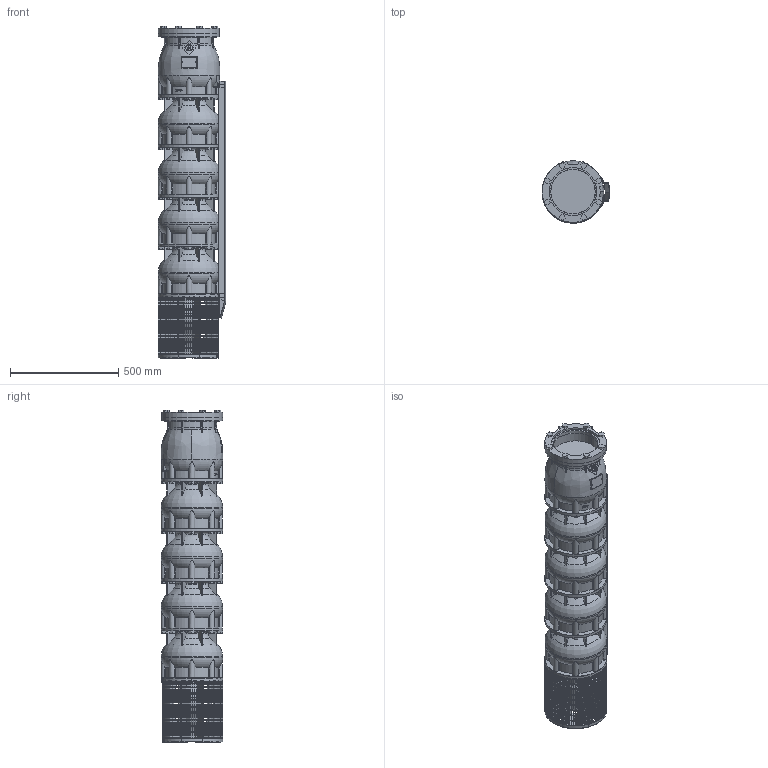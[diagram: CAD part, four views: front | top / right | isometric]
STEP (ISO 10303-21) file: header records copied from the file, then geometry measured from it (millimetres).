
FILE_DESCRIPTION(/* description */ ('-'),/* implementation_level */ '2;1');
FILE_NAME(/* name */ 'VSI454-4_WF_M12-50_DME',/* time_stamp */ '2026-01-21T14:48:56+01:00',/* author */ ('Simonelli M.'),/* organization */ ('Franklin Electric Srl'),/* preprocessor_version */ 'ST-DEVELOPER v18.102',/* originating_system */ 'Solid Edge',/* authorisation */ 'Unknown');
FILE_SCHEMA (('AUTOMOTIVE_DESIGN {1 0 10303 214 3 1 1}'));
Products named in the file (12): VSI454-4_WF_M12-50_DME; VSI344-454_testata; VSI344-454_supporto; VSI344-454_filtro_A; VSI344-454_filtro_B; VSI344-454_terminale_top_copricavo_medio; VSI344-454_terminale_bottom_copricavo_medio; MID 454-4; VSI454_diffusore; M5X8_UNI7687; VSI184-254_giunto_10×12; VSI344-454_flangia_testata
Assembly tree (23 placements, depth 2):
  VSI454-4_WF_M12-50_DME
    VSI344-454_testata
    VSI344-454_supporto
    VSI344-454_filtro_A
    VSI344-454_filtro_B
    VSI344-454_terminale_top_copricavo_medio
    VSI344-454_terminale_bottom_copricavo_medio
    MID 454-4
    VSI454_diffusore  x4
    M5X8_UNI7687  x10
    VSI184-254_giunto_10×12
    VSI344-454_flangia_testata
Bounding box: 314.3 x 286 x 1535 mm (x, y, z)
Volume: 63685228.8 mm3; surface area: 3377220.6 mm2
Topology: 88 solids, 88 shells, 4347 faces, 12229 edges, 8123 vertices
Faces by surface type: plane 3484, cylinder 488, torus 257, cone 93, bspline 15, sphere 10
Full cylindrical faces by diameter (mm): 5 x10, 16 x8, 35 x1, 65 x1, 79 x1, 150 x1, 207 x1, 220.5 x1, 284.507 x4, 285 x4
Entity records: 124575 total; most frequent: CARTESIAN_POINT 28072, ORIENTED_EDGE 20264, DIRECTION 19364, EDGE_CURVE 10132, VERTEX_POINT 6757, AXIS2_PLACEMENT_3D 6540, LINE 6284, VECTOR 6284
